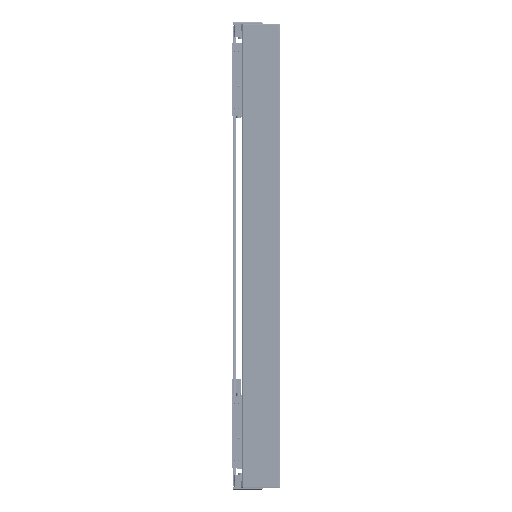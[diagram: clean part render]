
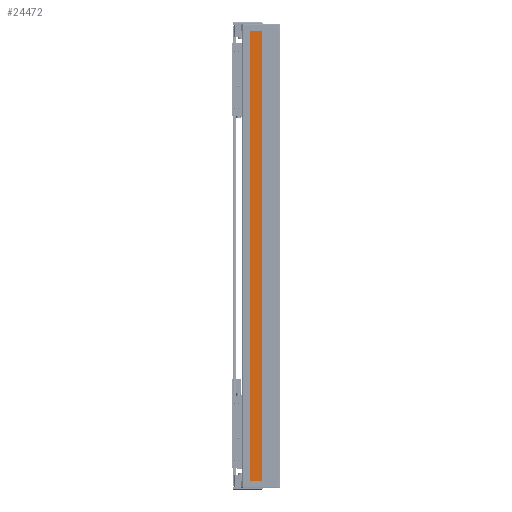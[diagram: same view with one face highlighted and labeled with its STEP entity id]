
A CAD part, left-side view. The second image highlights one B-rep face of the part: STEP entity #24472.
In plain terms, the highlighted planar face has unit normal (-1, 0, 0).
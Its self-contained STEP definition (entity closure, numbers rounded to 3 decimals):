
#2491 = VECTOR ( 'NONE', #47078, 1000. ) ;
#5011 = DIRECTION ( 'NONE',  ( 1., 0., 0. ) ) ;
#7748 = DIRECTION ( 'NONE',  ( 0., 0., -1. ) ) ;
#10068 = LINE ( 'NONE', #80192, #59235 ) ;
#12468 = CARTESIAN_POINT ( 'NONE',  ( -30., 39.5, 300. ) ) ;
#13808 = EDGE_LOOP ( 'NONE', ( #77439, #43370, #23539, #27771 ) ) ;
#13814 = EDGE_CURVE ( 'NONE', #77915, #100630, #10068, .T. ) ;
#19239 = CARTESIAN_POINT ( 'NONE',  ( -30., 23.5, -300. ) ) ;
#23030 = VECTOR ( 'NONE', #86027, 1000. ) ;
#23539 = ORIENTED_EDGE ( 'NONE', *, *, #45561, .F. ) ;
#24137 = VERTEX_POINT ( 'NONE', #12468 ) ;
#24472 = ADVANCED_FACE ( 'NONE', ( #48263 ), #40404, .F. ) ;
#27771 = ORIENTED_EDGE ( 'NONE', *, *, #108681, .T. ) ;
#37575 = CARTESIAN_POINT ( 'NONE',  ( -30., 23.5, 300. ) ) ;
#38062 = CARTESIAN_POINT ( 'NONE',  ( -30., 39.5, -300. ) ) ;
#39162 = VERTEX_POINT ( 'NONE', #52349 ) ;
#39732 = EDGE_CURVE ( 'NONE', #39162, #100630, #108215, .T. ) ;
#40404 = PLANE ( 'NONE',  #51350 ) ;
#41447 = LINE ( 'NONE', #102583, #73894 ) ;
#43370 = ORIENTED_EDGE ( 'NONE', *, *, #39732, .F. ) ;
#45561 = EDGE_CURVE ( 'NONE', #24137, #39162, #94425, .T. ) ;
#47078 = DIRECTION ( 'NONE',  ( 0., 0., -1. ) ) ;
#48263 = FACE_OUTER_BOUND ( 'NONE', #13808, .T. ) ;
#51350 = AXIS2_PLACEMENT_3D ( 'NONE', #82490, #5011, #107158 ) ;
#52349 = CARTESIAN_POINT ( 'NONE',  ( -30., 23.5, 300. ) ) ;
#59235 = VECTOR ( 'NONE', #94837, 1000. ) ;
#69719 = CARTESIAN_POINT ( 'NONE',  ( -30., 23.5, 300. ) ) ;
#73894 = VECTOR ( 'NONE', #7748, 1000. ) ;
#77439 = ORIENTED_EDGE ( 'NONE', *, *, #13814, .T. ) ;
#77915 = VERTEX_POINT ( 'NONE', #38062 ) ;
#80192 = CARTESIAN_POINT ( 'NONE',  ( -30., 23.5, -300. ) ) ;
#82490 = CARTESIAN_POINT ( 'NONE',  ( -30., 23.5, 300. ) ) ;
#86027 = DIRECTION ( 'NONE',  ( 0., -1., 0. ) ) ;
#94425 = LINE ( 'NONE', #69719, #23030 ) ;
#94837 = DIRECTION ( 'NONE',  ( 0., -1., 0. ) ) ;
#100630 = VERTEX_POINT ( 'NONE', #19239 ) ;
#102583 = CARTESIAN_POINT ( 'NONE',  ( -30., 39.5, 300. ) ) ;
#107158 = DIRECTION ( 'NONE',  ( 0., 1., 0. ) ) ;
#108215 = LINE ( 'NONE', #37575, #2491 ) ;
#108681 = EDGE_CURVE ( 'NONE', #24137, #77915, #41447, .T. ) ;
